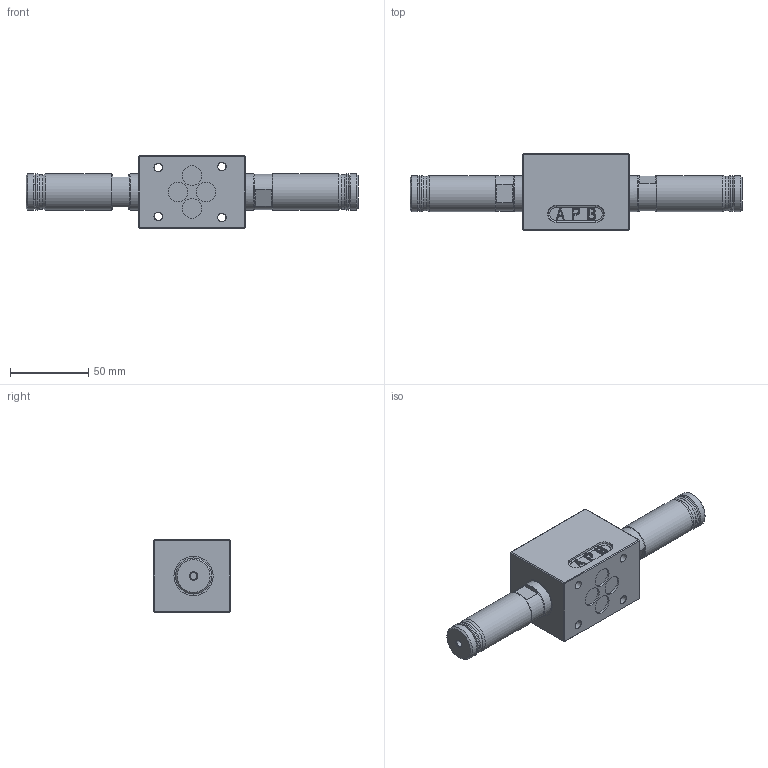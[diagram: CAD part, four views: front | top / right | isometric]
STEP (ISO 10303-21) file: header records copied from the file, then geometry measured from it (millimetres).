
FILE_DESCRIPTION (( 'STEP AP214' ), '1' );
FILE_NAME ('WDPFA06-4_3.STEP', '2018-03-09T08:32:36', ( '' ), ( '' ), 'SwSTEP 2.0', 'SolidWorks 2016', '' );
FILE_SCHEMA (( 'AUTOMOTIVE_DESIGN' ));
Length unit declared in the file: millimetre
Products named in the file (1): WDPFA06-4_3
Bounding box: 211.6 x 49 x 46 mm (x, y, z)
Volume: 203616.1 mm3; surface area: 36145 mm2
Topology: 5 solids, 5 shells, 1094 faces, 3031 edges, 1966 vertices
Faces by surface type: plane 690, cylinder 305, bspline 36, torus 26, cone 20, sphere 17
Full cylindrical faces by diameter (mm): 1.4 x2, 4.2 x2, 5.2 x4, 5.5 x4, 7.5 x8, 9.5 x4, 12.5 x4, 22 x2, 22.4 x2, 23 x8, 25 x2
Entity records: 48185 total; most frequent: CARTESIAN_POINT 7936, DIRECTION 6013, ORIENTED_EDGE 5860, EDGE_CURVE 2930, AXIS2_PLACEMENT_3D 2096, VERTEX_POINT 1948, VECTOR 1821, LINE 1821
